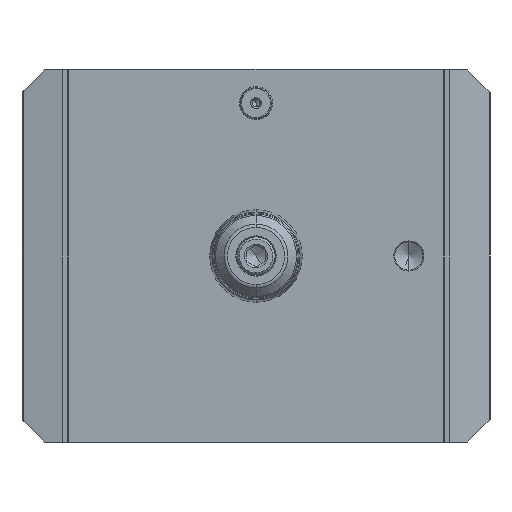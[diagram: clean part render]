
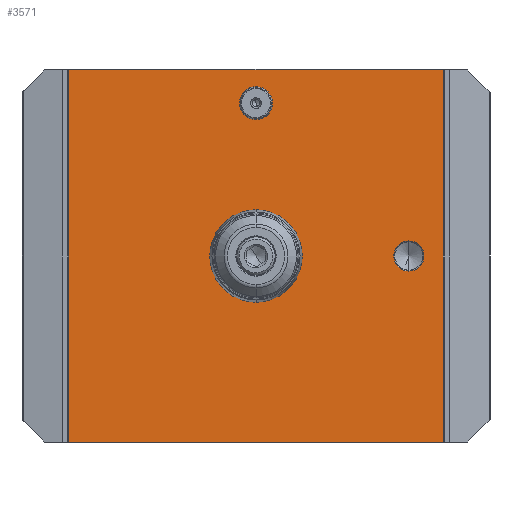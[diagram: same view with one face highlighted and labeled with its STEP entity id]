
A CAD part, front view. The second image highlights one B-rep face of the part: STEP entity #3571.
In plain terms, the highlighted planar face has unit normal (0, -1, 0).
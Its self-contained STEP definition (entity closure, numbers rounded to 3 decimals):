
#422 = ORIENTED_EDGE ( 'NONE', *, *, #6732, .F. ) ;
#441 = CARTESIAN_POINT ( 'NONE',  ( 0., 0., 65. ) ) ;
#825 = EDGE_CURVE ( 'NONE', #10869, #5881, #11784, .T. ) ;
#867 = CARTESIAN_POINT ( 'NONE',  ( -79.6, 0., -79.1 ) ) ;
#986 = DIRECTION ( 'NONE',  ( -1., 0., 0. ) ) ;
#1009 = DIRECTION ( 'NONE',  ( 0., -1., 0. ) ) ;
#1178 = VECTOR ( 'NONE', #20313, 1000. ) ;
#1661 = FACE_BOUND ( 'NONE', #15776, .T. ) ;
#1811 = VERTEX_POINT ( 'NONE', #19678 ) ;
#1855 = CARTESIAN_POINT ( 'NONE',  ( 65., 0., 0. ) ) ;
#2223 = LINE ( 'NONE', #14862, #2397 ) ;
#2397 = VECTOR ( 'NONE', #13126, 1000. ) ;
#2672 = CIRCLE ( 'NONE', #13180, 12.9 ) ;
#2922 = LINE ( 'NONE', #19821, #7256 ) ;
#2977 = PLANE ( 'NONE',  #9881 ) ;
#3076 = EDGE_CURVE ( 'NONE', #5647, #1811, #17747, .T. ) ;
#3109 = AXIS2_PLACEMENT_3D ( 'NONE', #441, #9874, #11323 ) ;
#3181 = FACE_BOUND ( 'NONE', #13056, .T. ) ;
#3555 = EDGE_CURVE ( 'NONE', #19707, #12623, #2672, .T. ) ;
#3571 = ADVANCED_FACE ( 'NONE', ( #17388, #1661, #3181, #12542 ), #2977, .F. ) ;
#4752 = CARTESIAN_POINT ( 'NONE',  ( -79.6, 0., 79.5 ) ) ;
#5239 = ORIENTED_EDGE ( 'NONE', *, *, #3076, .F. ) ;
#5341 = ORIENTED_EDGE ( 'NONE', *, *, #7913, .F. ) ;
#5647 = VERTEX_POINT ( 'NONE', #19290 ) ;
#5881 = VERTEX_POINT ( 'NONE', #10491 ) ;
#6101 = CARTESIAN_POINT ( 'NONE',  ( 0., 0., 65. ) ) ;
#6621 = EDGE_CURVE ( 'NONE', #6963, #13477, #2922, .T. ) ;
#6700 = LINE ( 'NONE', #9553, #17466 ) ;
#6732 = EDGE_CURVE ( 'NONE', #12623, #19707, #13501, .T. ) ;
#6938 = AXIS2_PLACEMENT_3D ( 'NONE', #10104, #8351, #17752 ) ;
#6963 = VERTEX_POINT ( 'NONE', #867 ) ;
#7248 = DIRECTION ( 'NONE',  ( 0., 0., -1. ) ) ;
#7251 = EDGE_CURVE ( 'NONE', #16873, #13477, #6700, .T. ) ;
#7256 = VECTOR ( 'NONE', #8869, 1000. ) ;
#7325 = VERTEX_POINT ( 'NONE', #10485 ) ;
#7629 = ORIENTED_EDGE ( 'NONE', *, *, #16273, .T. ) ;
#7900 = ORIENTED_EDGE ( 'NONE', *, *, #6621, .T. ) ;
#7913 = EDGE_CURVE ( 'NONE', #1811, #5647, #14830, .T. ) ;
#8117 = ORIENTED_EDGE ( 'NONE', *, *, #3555, .F. ) ;
#8316 = ORIENTED_EDGE ( 'NONE', *, *, #10464, .T. ) ;
#8351 = DIRECTION ( 'NONE',  ( 0., -1., 0. ) ) ;
#8808 = AXIS2_PLACEMENT_3D ( 'NONE', #6101, #12281, #12173 ) ;
#8869 = DIRECTION ( 'NONE',  ( 1., 0., 0. ) ) ;
#9165 = LINE ( 'NONE', #4752, #1178 ) ;
#9336 = CIRCLE ( 'NONE', #3109, 6.4 ) ;
#9553 = CARTESIAN_POINT ( 'NONE',  ( 79.6, 0., 79.5 ) ) ;
#9638 = DIRECTION ( 'NONE',  ( 0., 0., -1. ) ) ;
#9874 = DIRECTION ( 'NONE',  ( 0., -1., 0. ) ) ;
#9881 = AXIS2_PLACEMENT_3D ( 'NONE', #15043, #17285, #986 ) ;
#10104 = CARTESIAN_POINT ( 'NONE',  ( 0., 0., 0. ) ) ;
#10418 = DIRECTION ( 'NONE',  ( 0., -1., 0. ) ) ;
#10445 = ORIENTED_EDGE ( 'NONE', *, *, #825, .F. ) ;
#10464 = EDGE_CURVE ( 'NONE', #16873, #7325, #2223, .T. ) ;
#10485 = CARTESIAN_POINT ( 'NONE',  ( -79.6, 0., 79.1 ) ) ;
#10491 = CARTESIAN_POINT ( 'NONE',  ( 0., 0., 71.4 ) ) ;
#10779 = EDGE_LOOP ( 'NONE', ( #13619, #8316, #7629, #7900 ) ) ;
#10869 = VERTEX_POINT ( 'NONE', #16543 ) ;
#11323 = DIRECTION ( 'NONE',  ( 0., 0., -1. ) ) ;
#11784 = CIRCLE ( 'NONE', #8808, 6.4 ) ;
#12173 = DIRECTION ( 'NONE',  ( 0., 0., -1. ) ) ;
#12281 = DIRECTION ( 'NONE',  ( 0., -1., 0. ) ) ;
#12542 = FACE_OUTER_BOUND ( 'NONE', #10779, .T. ) ;
#12584 = CARTESIAN_POINT ( 'NONE',  ( 79.6, 0., -79.1 ) ) ;
#12623 = VERTEX_POINT ( 'NONE', #18015 ) ;
#12643 = EDGE_LOOP ( 'NONE', ( #10445, #16663 ) ) ;
#12741 = DIRECTION ( 'NONE',  ( 0., -1., 0. ) ) ;
#12859 = DIRECTION ( 'NONE',  ( 0., 0., -1. ) ) ;
#13056 = EDGE_LOOP ( 'NONE', ( #422, #8117 ) ) ;
#13126 = DIRECTION ( 'NONE',  ( -1., 0., 0. ) ) ;
#13139 = CARTESIAN_POINT ( 'NONE',  ( 0., 0., 12.9 ) ) ;
#13180 = AXIS2_PLACEMENT_3D ( 'NONE', #16711, #10418, #17094 ) ;
#13477 = VERTEX_POINT ( 'NONE', #12584 ) ;
#13501 = CIRCLE ( 'NONE', #6938, 12.9 ) ;
#13619 = ORIENTED_EDGE ( 'NONE', *, *, #7251, .F. ) ;
#14830 = CIRCLE ( 'NONE', #18806, 6.4 ) ;
#14862 = CARTESIAN_POINT ( 'NONE',  ( -79.6, 0., 79.1 ) ) ;
#15043 = CARTESIAN_POINT ( 'NONE',  ( -79.6, 0., 79.5 ) ) ;
#15776 = EDGE_LOOP ( 'NONE', ( #5341, #5239 ) ) ;
#16273 = EDGE_CURVE ( 'NONE', #7325, #6963, #9165, .T. ) ;
#16381 = EDGE_CURVE ( 'NONE', #5881, #10869, #9336, .T. ) ;
#16452 = AXIS2_PLACEMENT_3D ( 'NONE', #16521, #1009, #7248 ) ;
#16521 = CARTESIAN_POINT ( 'NONE',  ( 65., 0., 0. ) ) ;
#16543 = CARTESIAN_POINT ( 'NONE',  ( 0., 0., 58.6 ) ) ;
#16663 = ORIENTED_EDGE ( 'NONE', *, *, #16381, .F. ) ;
#16711 = CARTESIAN_POINT ( 'NONE',  ( 0., 0., 0. ) ) ;
#16873 = VERTEX_POINT ( 'NONE', #17849 ) ;
#17094 = DIRECTION ( 'NONE',  ( 0., 0., -1. ) ) ;
#17285 = DIRECTION ( 'NONE',  ( 0., 1., 0. ) ) ;
#17388 = FACE_BOUND ( 'NONE', #12643, .T. ) ;
#17466 = VECTOR ( 'NONE', #12859, 1000. ) ;
#17747 = CIRCLE ( 'NONE', #16452, 6.4 ) ;
#17752 = DIRECTION ( 'NONE',  ( 0., 0., -1. ) ) ;
#17849 = CARTESIAN_POINT ( 'NONE',  ( 79.6, 0., 79.1 ) ) ;
#18015 = CARTESIAN_POINT ( 'NONE',  ( 0., 0., -12.9 ) ) ;
#18806 = AXIS2_PLACEMENT_3D ( 'NONE', #1855, #12741, #9638 ) ;
#19290 = CARTESIAN_POINT ( 'NONE',  ( 65., 0., 6.4 ) ) ;
#19678 = CARTESIAN_POINT ( 'NONE',  ( 65., 0., -6.4 ) ) ;
#19707 = VERTEX_POINT ( 'NONE', #13139 ) ;
#19821 = CARTESIAN_POINT ( 'NONE',  ( 79.6, 0., -79.1 ) ) ;
#20313 = DIRECTION ( 'NONE',  ( 0., 0., -1. ) ) ;
